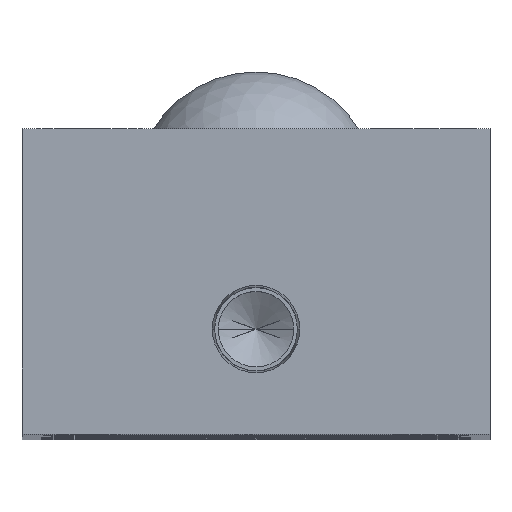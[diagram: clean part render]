
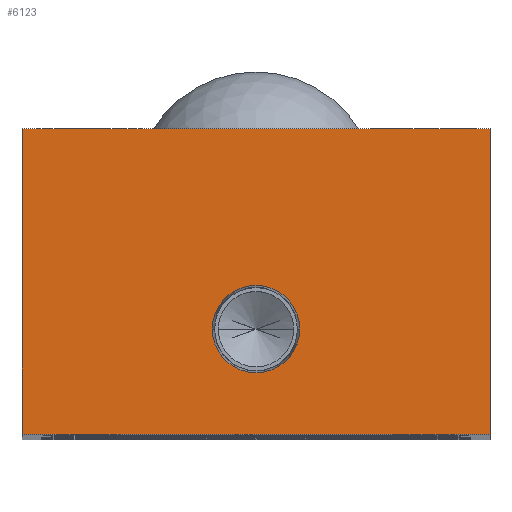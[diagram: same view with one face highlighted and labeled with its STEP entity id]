
A CAD part, top view. The second image highlights one B-rep face of the part: STEP entity #6123.
In plain terms, the highlighted planar face has unit normal (0, 0, 1).
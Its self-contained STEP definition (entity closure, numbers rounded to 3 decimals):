
#12 = EDGE_CURVE ( 'NONE', #7922, #4183, #8156, .T. ) ;
#94 = DIRECTION ( 'NONE',  ( 1., 0., 0. ) ) ;
#168 = CARTESIAN_POINT ( 'NONE',  ( 4.574, 11., 0. ) ) ;
#196 = VECTOR ( 'NONE', #4225, 1000. ) ;
#203 = EDGE_CURVE ( 'NONE', #3486, #279, #5893, .T. ) ;
#206 = EDGE_LOOP ( 'NONE', ( #5822, #5490, #5243, #7174 ) ) ;
#279 = VERTEX_POINT ( 'NONE', #168 ) ;
#400 = CARTESIAN_POINT ( 'NONE',  ( 24.5, 0., 0. ) ) ;
#608 = LINE ( 'NONE', #3814, #7139 ) ;
#629 = EDGE_LOOP ( 'NONE', ( #3674, #8033 ) ) ;
#801 = VERTEX_POINT ( 'NONE', #2757 ) ;
#804 = VECTOR ( 'NONE', #2378, 1000. ) ;
#1732 = CARTESIAN_POINT ( 'NONE',  ( -24.5, 32., 0. ) ) ;
#1852 = DIRECTION ( 'NONE',  ( 0., 0., -1. ) ) ;
#2234 = CARTESIAN_POINT ( 'NONE',  ( -24.5, 32., 0. ) ) ;
#2378 = DIRECTION ( 'NONE',  ( -1., 0., 0. ) ) ;
#2385 = EDGE_CURVE ( 'NONE', #6738, #801, #608, .T. ) ;
#2470 = CARTESIAN_POINT ( 'NONE',  ( 0., 0., 0. ) ) ;
#2565 = DIRECTION ( 'NONE',  ( 0., -1., 0. ) ) ;
#2757 = CARTESIAN_POINT ( 'NONE',  ( -24.5, 0., 0. ) ) ;
#3068 = DIRECTION ( 'NONE',  ( 0., 1., 0. ) ) ;
#3311 = CARTESIAN_POINT ( 'NONE',  ( -4.574, 11., 0. ) ) ;
#3486 = VERTEX_POINT ( 'NONE', #3311 ) ;
#3674 = ORIENTED_EDGE ( 'NONE', *, *, #7383, .F. ) ;
#3746 = DIRECTION ( 'NONE',  ( 0., 0., 1. ) ) ;
#3814 = CARTESIAN_POINT ( 'NONE',  ( -24.5, 0., 0. ) ) ;
#3908 = DIRECTION ( 'NONE',  ( 0., 0., 1. ) ) ;
#3937 = EDGE_CURVE ( 'NONE', #4183, #6738, #7322, .T. ) ;
#4183 = VERTEX_POINT ( 'NONE', #6447 ) ;
#4225 = DIRECTION ( 'NONE',  ( 1., 0., 0. ) ) ;
#4491 = EDGE_CURVE ( 'NONE', #801, #7922, #6927, .T. ) ;
#5019 = PLANE ( 'NONE',  #6744 ) ;
#5243 = ORIENTED_EDGE ( 'NONE', *, *, #12, .T. ) ;
#5333 = FACE_BOUND ( 'NONE', #629, .T. ) ;
#5490 = ORIENTED_EDGE ( 'NONE', *, *, #4491, .T. ) ;
#5528 = FACE_OUTER_BOUND ( 'NONE', #206, .T. ) ;
#5822 = ORIENTED_EDGE ( 'NONE', *, *, #2385, .T. ) ;
#5893 = CIRCLE ( 'NONE', #7824, 4.574 ) ;
#6123 = ADVANCED_FACE ( 'NONE', ( #5333, #5528 ), #5019, .F. ) ;
#6202 = CARTESIAN_POINT ( 'NONE',  ( 24.5, 32., 0. ) ) ;
#6217 = AXIS2_PLACEMENT_3D ( 'NONE', #7504, #3746, #8150 ) ;
#6276 = DIRECTION ( 'NONE',  ( -1., 0., 0. ) ) ;
#6447 = CARTESIAN_POINT ( 'NONE',  ( 24.5, 32., 0. ) ) ;
#6476 = VECTOR ( 'NONE', #3068, 1000. ) ;
#6738 = VERTEX_POINT ( 'NONE', #2234 ) ;
#6744 = AXIS2_PLACEMENT_3D ( 'NONE', #2470, #1852, #6276 ) ;
#6927 = LINE ( 'NONE', #400, #196 ) ;
#7139 = VECTOR ( 'NONE', #2565, 1000. ) ;
#7151 = CARTESIAN_POINT ( 'NONE',  ( 24.5, 0., 0. ) ) ;
#7174 = ORIENTED_EDGE ( 'NONE', *, *, #3937, .T. ) ;
#7183 = CIRCLE ( 'NONE', #6217, 4.574 ) ;
#7322 = LINE ( 'NONE', #1732, #804 ) ;
#7383 = EDGE_CURVE ( 'NONE', #279, #3486, #7183, .T. ) ;
#7504 = CARTESIAN_POINT ( 'NONE',  ( 0., 11., 0. ) ) ;
#7663 = CARTESIAN_POINT ( 'NONE',  ( 0., 11., 0. ) ) ;
#7824 = AXIS2_PLACEMENT_3D ( 'NONE', #7663, #3908, #94 ) ;
#7922 = VERTEX_POINT ( 'NONE', #7151 ) ;
#8033 = ORIENTED_EDGE ( 'NONE', *, *, #203, .F. ) ;
#8150 = DIRECTION ( 'NONE',  ( 1., 0., 0. ) ) ;
#8156 = LINE ( 'NONE', #6202, #6476 ) ;
